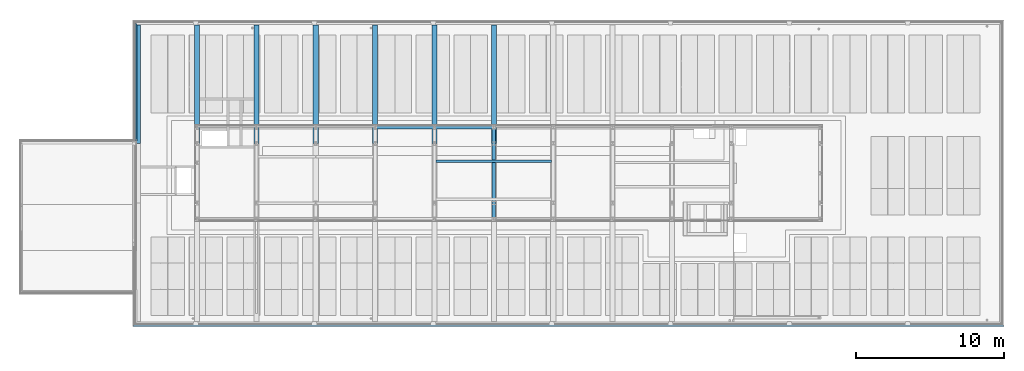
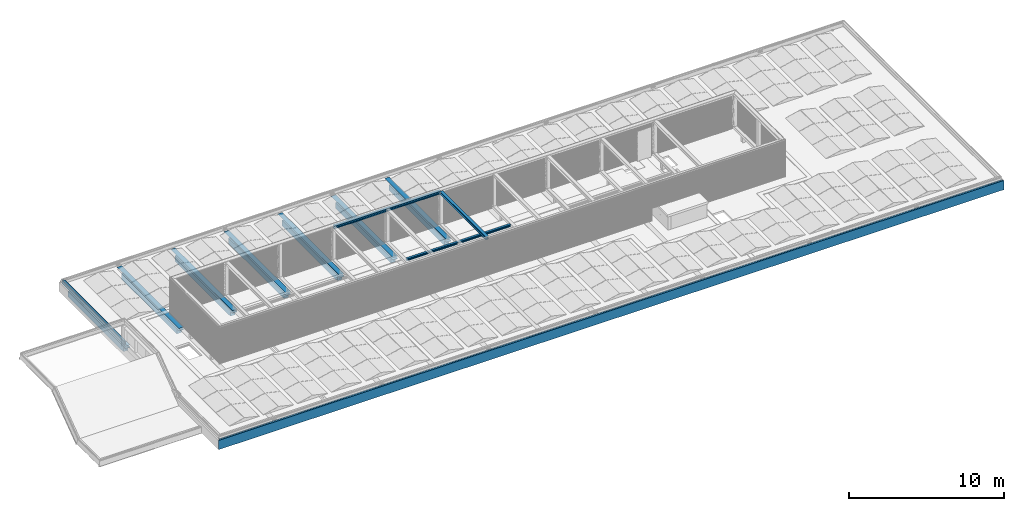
# One storey, part 10 of 63: 13 beams.
"""IFC2X3 building model written with IfcOpenShell, lengths in millimetres."""

from ifc_helpers import new_model, entity, si_unit, converted_unit, derived_unit, money_unit, direction, frame, origin_with_axes, place, context, subcontext, project, spatial, faceted_brep, material, type_object, element, save


model = new_model("IFC2X3")

# Units and contexts
model_context = context("Model", 3, precision=0.01, world=origin_with_axes(), true_north=direction((0.0, 1.0)))
body_context = subcontext(model_context, "Body", "Model", "MODEL_VIEW")
ifc_project = project(units=[si_unit("LENGTHUNIT", "METRE", prefix="MILLI"), si_unit("AREAUNIT", "SQUARE_METRE"), si_unit("VOLUMEUNIT", "CUBIC_METRE"), converted_unit("PLANEANGLEUNIT", "DEGREE", entity("IfcPlaneAngleMeasure", 0.0174532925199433), si_unit("PLANEANGLEUNIT", "RADIAN"), dimensions=[0, 0, 0, 0, 0, 0, 0]), money_unit("EUR"), converted_unit("TIMEUNIT", "Year", entity("IfcTimeMeasure", 31557600.0), si_unit("TIMEUNIT", "SECOND"), dimensions=[0, 0, 1, 0, 0, 0, 0]), si_unit("MASSUNIT", "GRAM", prefix="KILO"), si_unit("THERMODYNAMICTEMPERATUREUNIT", "DEGREE_CELSIUS"), si_unit("LUMINOUSINTENSITYUNIT", "LUMEN"), si_unit("ENERGYUNIT", "JOULE", prefix="MEGA"), derived_unit("THERMALCONDUCTANCEUNIT", [(si_unit("POWERUNIT", "WATT"), 1), (si_unit("LENGTHUNIT", "METRE"), -1), (si_unit("THERMODYNAMICTEMPERATUREUNIT", "KELVIN"), -1)]), derived_unit("SPECIFICHEATCAPACITYUNIT", [(si_unit("ENERGYUNIT", "JOULE"), 1), (si_unit("MASSUNIT", "GRAM", prefix="KILO"), -1), (si_unit("THERMODYNAMICTEMPERATUREUNIT", "KELVIN"), -1)]), derived_unit("MASSDENSITYUNIT", [(si_unit("MASSUNIT", "GRAM", prefix="KILO"), 1), (si_unit("VOLUMEUNIT", "CUBIC_METRE"), -1)])], contexts=[model_context])

# Site, building, storey
site_placement = place(None, origin_with_axes())
site = spatial("IfcSite", under=ifc_project, at=site_placement, Name="<site naam>", CompositionType="ELEMENT")
building_placement = place(site_placement, origin_with_axes())
building = spatial("IfcBuilding", under=site, at=building_placement, Name="<Naam gebouw>", CompositionType="ELEMENT")
storey_placement = place(building_placement, frame((0.0, 0.0, 12770.0), z_axis=(0.0, 0.0, 1.0), x_axis=(1.0, 0.0, 0.0)))
storey = spatial("IfcBuildingStorey", under=building, at=storey_placement, Name="04 4e verdieping", CompositionType="ELEMENT", Elevation=12770.0)

# Beams
ifc_material_1 = material(Name="beton_gewapend_prefab")
beam_type_1 = type_object("IfcBeamType", Name="Betonbanden 160 x 760", PredefinedType="BEAM")
beam_1_placement = place(storey_placement, frame((11725.00000000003, -264.9999996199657, 50.00004976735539), z_axis=(0.0, 0.0, 1.0), x_axis=(0.0, -1.0, 0.0)))
element("IfcBeam", 1, at=beam_1_placement, inside=storey, type_object=beam_type_1, material=ifc_material_1, Name="41_Balk_Betonbanden", ObjectType="BEAM", context=body_context, shape_type="Brep", body=[
    faceted_brep([(-60.0000003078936, 60.00000030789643, 0.0), (-60.0000003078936, 60.00000030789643, -30.00000230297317), (-60.00000030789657, 58524.99999969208, -30.00000230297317), (-60.00000030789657, 58524.99999969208, 0.0), (59.99999757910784, -59.99999757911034, -759.9999375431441), (59.99999757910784, -59.99999757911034, -30.00000230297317), (-100.0000071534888, 100.0000071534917, 0.0), (-100.0000071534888, 100.0000071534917, -100.0000001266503), (4.298052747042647e-06, -4.298053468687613e-06, -100.0000001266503), (4.298052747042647e-06, -4.298053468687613e-06, -690.0000385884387), (-29.99999800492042, 29.9999980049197, -690.0000385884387), (-29.99999800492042, 29.9999980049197, -660.0000280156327), (-60.0000003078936, 60.00000030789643, -660.0000280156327), (-60.0000003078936, 60.00000030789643, -759.9999375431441), (4.298052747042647e-06, -4.298053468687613e-06, -759.9999375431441), (4.298052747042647e-06, -4.298053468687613e-06, -730.0000145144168), (29.99999527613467, -29.99999527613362, -730.0000145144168), (29.99999527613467, -29.99999527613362, -759.9999375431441), (59.9999975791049, 58644.99999757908, -30.00000230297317), (-100.0000071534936, 58484.99999284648, 0.0), (59.9999975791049, 58644.99999757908, -759.9999375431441), (29.99999527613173, 58614.99999527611, -759.9999375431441), (29.99999527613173, 58614.99999527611, -730.0000145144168), (4.298049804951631e-06, 58585.00000429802, -730.0000145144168), (4.298049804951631e-06, 58585.00000429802, -759.9999375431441), (-60.00000030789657, 58524.99999969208, -759.9999375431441), (-60.00000030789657, 58524.99999969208, -660.0000280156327), (-29.99999800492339, 58555.00000199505, -660.0000280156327), (-29.99999800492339, 58555.00000199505, -690.0000385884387), (4.298049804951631e-06, 58585.00000429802, -690.0000385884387), (4.298049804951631e-06, 58585.00000429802, -100.0000001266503), (-100.0000071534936, 58484.99999284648, -100.0000001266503)], [[[0, 1, 2, 3]], [[4, 5, 1, 0, 6, 7, 8, 9, 10, 11, 12, 13, 14, 15, 16, 17]], [[1, 5, 18, 2]], [[19, 3, 2, 18, 20, 21, 22, 23, 24, 25, 26, 27, 28, 29, 30, 31]], [[6, 0, 3, 19]], [[5, 4, 20, 18]], [[7, 6, 19, 31]], [[8, 7, 31, 30]], [[9, 8, 30, 29]], [[10, 9, 29, 28]], [[11, 10, 28, 27]], [[12, 11, 27, 26]], [[13, 12, 26, 25]], [[14, 13, 25, 24]], [[15, 14, 24, 23]], [[16, 15, 23, 22]], [[17, 16, 22, 21]], [[4, 17, 21, 20]]]),
])
ifc_material_2 = material(Name="staal C")
beam_type_2 = type_object("IfcBeamType", Name="HEB220 220 x 220", PredefinedType="BEAM")
beam_2_placement = place(storey_placement, frame((36000.00000000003, 13084.50000000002, 3039.88580884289), z_axis=(0.0, 0.0, 1.0), x_axis=(0.000130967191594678, 0.9999999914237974, 0.0)))
element("IfcBeam", 2, at=beam_2_placement, inside=storey, type_object=beam_type_2, material=ifc_material_2, Name="Info_Balk_HEB220", ObjectType="BEAM", context=body_context, shape_type="Brep", body=[
    faceted_brep([(110.0000000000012, 4110.014716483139, 99.50000000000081), (110.0000000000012, 7890.014474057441, 99.50000000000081), (110.0000000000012, 7890.014474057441, 115.5000000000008), (110.0000000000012, 4110.014716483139, 115.5000000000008), (98.45288370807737, 7995.262962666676, 99.50000000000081), (98.46666800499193, 7890.012963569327, 99.50000000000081), (98.96172395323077, 4110.013270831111, 99.50000000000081), (98.97550825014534, 4004.763271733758, 99.50000000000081), (4.749999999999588, 4004.75093128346, 99.50000000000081), (4.750000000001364, 7995.250690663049, 99.50000000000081), (98.46666800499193, 7890.012963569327, 115.5000000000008), (-89.53333038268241, 7889.988341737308, 115.5000000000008), (-105.5333302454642, 7889.986246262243, 115.5000000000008), (-105.547738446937, 8000.000068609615, 115.5000000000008), (-109.9999999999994, 8000.000068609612, 115.5000000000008), (-109.9999999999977, 4109.985903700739, 115.5000000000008), (-89.03827443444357, 4109.988648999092, 115.5000000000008), (-89.024490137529, 4004.738649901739, 115.5000000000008), (98.97550825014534, 4004.763271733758, 115.5000000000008), (98.96172395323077, 4110.013270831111, 115.5000000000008), (98.45288370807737, 7995.262962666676, 115.5000000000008), (-89.54711467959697, 7995.238340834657, 115.5000000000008), (-89.024490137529, 4004.738649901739, 99.50000000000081), (-4.749999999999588, 4004.749687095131, 99.50000000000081), (-4.749999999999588, 4004.749687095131, -88.4999999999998), (-89.024490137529, 4004.738649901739, -88.4999999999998), (-89.024490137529, 4004.738649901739, -104.4999999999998), (98.97550825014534, 4004.763271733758, -104.4999999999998), (98.97550825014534, 4004.763271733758, -88.4999999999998), (4.749999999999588, 4004.75093128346, -88.4999999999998), (4.750000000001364, 7995.250690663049, -88.4999999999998), (-89.54711467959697, 7995.238340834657, 99.50000000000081), (98.45288370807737, 7995.262962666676, -88.4999999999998), (98.45288370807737, 7995.262962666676, -104.4999999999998), (-89.54711467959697, 7995.238340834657, -104.4999999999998), (-89.54711467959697, 7995.238340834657, -88.4999999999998), (-4.749999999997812, 7995.249446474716, -88.4999999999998), (-4.749999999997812, 7995.249446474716, 99.50000000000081), (-105.5333302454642, 7889.986246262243, 99.50000000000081), (-89.53333038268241, 7889.988341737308, 99.50000000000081), (-105.547738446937, 8000.000068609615, 99.50000000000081), (-109.9999999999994, 8000.000068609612, 99.50000000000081), (-109.9999999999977, 4109.985903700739, 99.50000000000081), (-105.0382742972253, 4109.986553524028, 99.50000000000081), (-89.03827443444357, 4109.988648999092, 99.50000000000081), (-89.53333038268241, 7889.988341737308, -88.4999999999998), (-105.5333302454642, 7889.986246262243, -88.4999999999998), (-105.547738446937, 8000.000068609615, -88.4999999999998), (-109.9999999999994, 8000.000068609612, -88.4999999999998), (-109.9999999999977, 4109.985903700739, -88.4999999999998), (-105.0382742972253, 4109.986553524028, -88.4999999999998), (-89.03827443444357, 4109.988648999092, -88.4999999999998), (-89.03827443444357, 4109.988648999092, -104.4999999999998), (98.46666800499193, 7890.012963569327, -104.4999999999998), (110.0000000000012, 7890.014474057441, -104.4999999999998), (110.0000000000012, 4110.014716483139, -104.4999999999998), (98.96172395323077, 4110.013270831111, -104.4999999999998), (-105.0382742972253, 4109.986553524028, -104.4999999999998), (-109.9999999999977, 4109.985903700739, -104.4999999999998), (-109.9999999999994, 8000.000068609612, -104.4999999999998), (-105.547738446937, 8000.000068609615, -104.4999999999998), (-105.5333302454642, 7889.986246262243, -104.4999999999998), (-89.53333038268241, 7889.988341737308, -104.4999999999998), (98.96172395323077, 4110.013270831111, -88.4999999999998), (98.46666800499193, 7890.012963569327, -88.4999999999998), (110.0000000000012, 4110.014716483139, -88.4999999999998), (110.0000000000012, 7890.014474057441, -88.4999999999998)], [[[0, 1, 2, 3]], [[4, 5, 1, 0, 6, 7, 8, 9]], [[5, 10, 2, 1]], [[11, 12, 13, 14, 15, 16, 17, 18, 19, 3, 2, 10, 20, 21]], [[6, 0, 3, 19]], [[4, 20, 10, 5]], [[6, 19, 18, 7]], [[7, 18, 17, 22, 23, 24, 25, 26, 27, 28, 29, 8]], [[29, 30, 9, 8]], [[31, 21, 20, 4, 9, 30, 32, 33, 34, 35, 36, 37]], [[38, 12, 11, 39]], [[40, 13, 12, 38]], [[14, 13, 40, 41]], [[15, 14, 41, 42]], [[42, 43, 44, 16, 15]], [[22, 17, 16, 44]], [[39, 11, 21, 31]], [[39, 31, 37, 23, 22, 44, 43, 42, 41, 40, 38]], [[23, 37, 36, 24]], [[45, 46, 47, 48, 49, 50, 51, 25, 24, 36, 35]], [[26, 25, 51, 52]], [[33, 53, 54, 55, 56, 27, 26, 52, 57, 58, 59, 60, 61, 62, 34]], [[56, 63, 28, 27]], [[64, 32, 30, 29, 28, 63, 65, 66]], [[33, 32, 64, 53]], [[62, 45, 35, 34]], [[61, 46, 45, 62]], [[60, 47, 46, 61]], [[48, 47, 60, 59]], [[49, 48, 59, 58]], [[58, 57, 52, 51, 50, 49]], [[53, 64, 66, 54]], [[55, 54, 66, 65]], [[56, 55, 65, 63]]]),
    faceted_brep([(-88.5144056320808, 109.9884427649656, 115.5000000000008), (-88.50062133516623, 4.738443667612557, 115.5000000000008), (99.49937705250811, 4.76306549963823, 115.5000000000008), (99.48559275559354, 110.0130645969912, 115.5000000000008), (110.0000000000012, 110.014441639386, 115.5000000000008), (110.0000000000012, 3890.014714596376, 115.5000000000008), (98.99053673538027, 3890.01327271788, 115.5000000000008), (98.97675243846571, 3995.263271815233, 115.5000000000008), (-89.02324594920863, 3995.238649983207, 115.5000000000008), (-89.00946165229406, 3889.988650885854, 115.5000000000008), (-109.9999999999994, 3889.985901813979, 115.5000000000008), (-109.9999999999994, 109.9856288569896, 115.5000000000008), (-88.50062133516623, 4.738443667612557, 99.50000000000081), (-88.5144056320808, 109.9884427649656, 99.50000000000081), (99.49937705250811, 4.76306549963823, 99.50000000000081), (-4.749999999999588, 4.74941225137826, 99.50000000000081), (-4.749999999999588, 4.74941225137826, -88.4999999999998), (-88.50062133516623, 4.738443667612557, -88.4999999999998), (-88.50062133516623, 4.738443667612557, -104.4999999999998), (99.49937705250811, 4.76306549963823, -104.4999999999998), (99.49937705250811, 4.76306549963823, -88.4999999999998), (4.749999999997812, 4.750656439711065, -88.4999999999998), (4.749999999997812, 4.750656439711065, 99.50000000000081), (99.48559275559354, 110.0130645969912, 99.50000000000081), (110.0000000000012, 110.014441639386, 99.50000000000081), (110.0000000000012, 3890.014714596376, 99.50000000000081), (98.99053673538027, 3890.01327271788, 99.50000000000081), (98.97675243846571, 3995.263271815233, 99.50000000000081), (-89.02324594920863, 3995.238649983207, 99.50000000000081), (4.749999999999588, 3995.250931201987, 99.50000000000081), (4.749999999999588, 3995.250931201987, -88.4999999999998), (98.97675243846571, 3995.263271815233, -88.4999999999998), (98.97675243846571, 3995.263271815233, -104.4999999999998), (-89.02324594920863, 3995.238649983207, -104.4999999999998), (-89.02324594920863, 3995.238649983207, -88.4999999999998), (-4.749999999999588, 3995.249687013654, -88.4999999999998), (-4.749999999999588, 3995.249687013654, 99.50000000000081), (-89.00946165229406, 3889.988650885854, 99.50000000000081), (-105.0094615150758, 3889.986555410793, 99.50000000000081), (-109.9999999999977, 3889.985901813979, 99.50000000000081), (-109.9999999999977, 109.9856288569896, 99.50000000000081), (-104.5144054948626, 109.9863472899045, 99.50000000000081), (-88.5144056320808, 109.9884427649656, -88.4999999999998), (-89.00946165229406, 3889.988650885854, -88.4999999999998), (-105.0094615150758, 3889.986555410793, -88.4999999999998), (-109.9999999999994, 3889.985901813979, -88.4999999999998), (-109.9999999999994, 109.9856288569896, -88.4999999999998), (-104.5144054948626, 109.9863472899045, -88.4999999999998), (-88.5144056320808, 109.9884427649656, -104.4999999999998), (-104.5144054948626, 109.9863472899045, -104.4999999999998), (-109.9999999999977, 109.9856288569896, -104.4999999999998), (-109.9999999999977, 3889.985901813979, -104.4999999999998), (-105.0094615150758, 3889.986555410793, -104.4999999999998), (-89.00946165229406, 3889.988650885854, -104.4999999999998), (98.99053673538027, 3890.01327271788, -104.4999999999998), (110.0000000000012, 3890.014714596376, -104.4999999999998), (110.0000000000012, 110.014441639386, -104.4999999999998), (99.48559275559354, 110.0130645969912, -104.4999999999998), (99.48559275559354, 110.0130645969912, -88.4999999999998), (110.0000000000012, 110.014441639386, -88.4999999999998), (110.0000000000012, 3890.014714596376, -88.4999999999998), (98.99053673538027, 3890.01327271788, -88.4999999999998)], [[[0, 1, 2, 3, 4, 5, 6, 7, 8, 9, 10, 11]], [[12, 1, 0, 13]], [[14, 2, 1, 12, 15, 16, 17, 18, 19, 20, 21, 22]], [[23, 3, 2, 14]], [[23, 24, 4, 3]], [[5, 4, 24, 25]], [[26, 6, 5, 25]], [[27, 7, 6, 26]], [[28, 8, 7, 27, 29, 30, 31, 32, 33, 34, 35, 36]], [[37, 9, 8, 28]], [[10, 9, 37, 38, 39]], [[10, 39, 40, 11]], [[40, 41, 13, 0, 11]], [[12, 13, 41, 40, 39, 38, 37, 28, 36, 15]], [[35, 16, 15, 36]], [[42, 17, 16, 35, 34, 43, 44, 45, 46, 47]], [[18, 17, 42, 48]], [[18, 48, 49, 50, 51, 52, 53, 33, 32, 54, 55, 56, 57, 19]], [[57, 58, 20, 19]], [[20, 58, 59, 60, 61, 31, 30, 21]], [[29, 22, 21, 30]], [[23, 14, 22, 29, 27, 26, 25, 24]], [[32, 31, 61, 54]], [[53, 43, 34, 33]], [[45, 44, 43, 53, 52, 51]], [[45, 51, 50, 46]], [[50, 49, 48, 42, 47, 46]], [[54, 61, 60, 55]], [[60, 59, 56, 55]], [[57, 56, 59, 58]]]),
])
beam_3_placement = place(storey_placement, frame((35999.99996569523, 12980.00000000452, 3039.88580884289), z_axis=(0.0, 0.0, 1.0), x_axis=(-1.0, 0.0, 0.0)))
element("IfcBeam", 3, at=beam_3_placement, inside=storey, type_object=beam_type_2, material=ifc_material_2, Name="Info_Balk_HEB220", ObjectType="BEAM", context=body_context, shape_type="Brep", body=[
    faceted_brep([(-109.9999999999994, 0.0, 115.5000000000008), (-109.9999999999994, 5960.000000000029, 115.5000000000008), (-109.9999999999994, 5960.000000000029, 99.50000000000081), (-109.9999999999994, 0.0, 99.50000000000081), (109.9999999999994, 0.0, 115.5000000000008), (109.9999999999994, 5960.000000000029, 115.5000000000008), (109.9999999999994, 5960.000000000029, 99.50000000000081), (4.750000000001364, 5960.000000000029, 99.50000000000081), (4.750000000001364, 5960.000000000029, -88.4999999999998), (109.9999999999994, 5960.000000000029, -88.4999999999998), (109.9999999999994, 5960.000000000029, -104.4999999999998), (-109.9999999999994, 5960.000000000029, -104.4999999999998), (-109.9999999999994, 5960.000000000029, -88.4999999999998), (-4.750000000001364, 5960.000000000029, -88.4999999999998), (-4.750000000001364, 5960.000000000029, 99.50000000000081), (-4.750000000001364, 0.0, 99.50000000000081), (-4.750000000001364, 0.0, -88.4999999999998), (-109.9999999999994, 0.0, -88.4999999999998), (-109.9999999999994, 0.0, -104.4999999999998), (109.9999999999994, 0.0, -104.4999999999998), (109.9999999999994, 0.0, -88.4999999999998), (4.750000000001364, 0.0, -88.4999999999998), (4.750000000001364, 0.0, 99.50000000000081), (109.9999999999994, 0.0, 99.50000000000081)], [[[0, 1, 2, 3]], [[4, 5, 1, 0]], [[2, 1, 5, 6, 7, 8, 9, 10, 11, 12, 13, 14]], [[3, 2, 14, 15]], [[4, 0, 3, 15, 16, 17, 18, 19, 20, 21, 22, 23]], [[23, 6, 5, 4]], [[22, 7, 6, 23]], [[21, 8, 7, 22]], [[20, 9, 8, 21]], [[19, 10, 9, 20]], [[18, 11, 10, 19]], [[17, 12, 11, 18]], [[16, 13, 12, 17]], [[15, 14, 13, 16]]]),
])
ifc_material_3 = material(Name="beton_gewapend C")
beam_type_3 = type_object("IfcBeamType", Name="beton_gewapend C 350 x 600", PredefinedType="BEAM")
beam_4_placement = place(storey_placement, frame((36000.00000000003, 19999.99999999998, -59.99999999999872), z_axis=(0.0, 0.0, 1.0), x_axis=(-1.0, 0.0, 0.0)))
element("IfcBeam", 4, at=beam_4_placement, inside=storey, type_object=beam_type_3, material=ifc_material_3, Name="28_Balk_beton_gewapend", ObjectType="BEAM", context=body_context, shape_type="Brep", body=[
    faceted_brep([(-175.0000000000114, 7999.999999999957, -220.0000000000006), (-175.0000000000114, 7724.999999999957, -220.0000000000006), (-175.0000000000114, 7724.999999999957, -599.9999999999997), (-175.0000000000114, 549.9999999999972, -599.9999999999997), (-175.0000000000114, 549.9999999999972, -159.9999853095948), (-175.0000000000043, 7999.999999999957, -159.9999853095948), (174.9999999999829, 7724.999999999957, -220.0000000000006), (174.9999999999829, 7999.999999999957, -220.0000000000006), (174.9999999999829, 7724.999999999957, -599.9999999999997), (174.9999999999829, 549.9999999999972, -599.9999999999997), (174.9999999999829, 549.9999999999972, -159.9999853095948), (174.9999999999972, 7999.999999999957, -159.9999853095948)], [[[0, 1, 2, 3, 4, 5]], [[6, 1, 0, 7]], [[8, 2, 1, 6]], [[3, 2, 8, 9]], [[9, 10, 4, 3]], [[5, 4, 10, 11]], [[11, 7, 0, 5]], [[8, 6, 7, 11, 10, 9]]]),
    faceted_brep([(-175.0000000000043, 7999.999999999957, 0.0), (-175.0000000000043, 7999.999999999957, -9.99998530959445), (-174.9999999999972, 0.0, -9.99998530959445), (-174.9999999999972, 0.0, 0.0), (174.9999999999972, 7999.999999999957, 0.0), (174.9999999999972, 7999.999999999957, -9.99998530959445), (174.9999999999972, 0.0, -9.99998530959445), (174.9999999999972, 0.0, 0.0)], [[[0, 1, 2, 3]], [[4, 5, 1, 0]], [[5, 6, 2, 1]], [[3, 2, 6, 7]], [[3, 7, 4, 0]], [[7, 6, 5, 4]]]),
])
beam_5_placement = place(storey_placement, frame((32000.00000000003, 19999.99999999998, -59.99999999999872), z_axis=(0.0, 0.0, 1.0), x_axis=(-1.0, 0.0, 0.0)))
element("IfcBeam", 5, at=beam_5_placement, inside=storey, type_object=beam_type_3, material=ifc_material_3, Name="28_Balk_beton_gewapend", ObjectType="BEAM", context=body_context, shape_type="Brep", body=[
    faceted_brep([(-175.0000000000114, 7999.999999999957, -220.0000000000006), (-175.0000000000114, 7724.999999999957, -220.0000000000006), (-175.0000000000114, 7724.999999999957, -599.9999999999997), (-175.0000000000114, 549.9999999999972, -599.9999999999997), (-175.0000000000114, 549.9999999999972, -159.9999853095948), (-175.0000000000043, 7999.999999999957, -159.9999853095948), (174.9999999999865, 7724.999999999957, -220.0000000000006), (174.9999999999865, 7999.999999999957, -220.0000000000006), (174.9999999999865, 7724.999999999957, -599.9999999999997), (174.9999999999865, 549.9999999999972, -599.9999999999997), (174.9999999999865, 549.9999999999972, -159.9999853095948), (175.0000000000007, 7999.999999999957, -159.9999853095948)], [[[0, 1, 2, 3, 4, 5]], [[6, 1, 0, 7]], [[8, 2, 1, 6]], [[3, 2, 8, 9]], [[9, 10, 4, 3]], [[5, 4, 10, 11]], [[11, 7, 0, 5]], [[8, 6, 7, 11, 10, 9]]]),
    faceted_brep([(-175.0000000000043, 7999.999999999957, 0.0), (-175.0000000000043, 7999.999999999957, -9.99998530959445), (-174.9999999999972, 0.0, -9.99998530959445), (-174.9999999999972, 0.0, 0.0), (175.0000000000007, 7999.999999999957, 0.0), (175.0000000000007, 7999.999999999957, -9.99998530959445), (175.0000000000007, 0.0, -9.99998530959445), (175.0000000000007, 0.0, 0.0)], [[[0, 1, 2, 3]], [[4, 5, 1, 0]], [[5, 6, 2, 1]], [[3, 2, 6, 7]], [[3, 7, 4, 0]], [[7, 6, 5, 4]]]),
])
for number, where, z_axis, x_axis, name in (
    (6, (28000.00000000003, 19999.99999999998, -59.99999999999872), (0.0, 0.0, 1.0), (-1.0, 0.0, 0.0), "28_Balk_beton_gewapend"),
    (7, (24000.00000000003, 19999.99999999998, -59.99999999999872), (0.0, 0.0, 1.0), (-1.0, 0.0, 0.0), "28_Balk_beton_gewapend"),
    (8, (20000.00000000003, 19999.99999999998, -59.99999999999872), (0.0, 0.0, 1.0), (-1.0, 0.0, 0.0), "28_Balk_beton_gewapend"),
):
    element("IfcBeam", number, at=place(storey_placement, frame(where, z_axis=z_axis, x_axis=x_axis)), inside=storey, type_object=beam_type_3, material=ifc_material_3, Name=name, ObjectType="BEAM", context=body_context, shape_type="Brep", body=[
        faceted_brep([(-175.0000000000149, 7999.999999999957, -220.0000000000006), (-175.0000000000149, 7724.999999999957, -220.0000000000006), (-175.0000000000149, 7724.999999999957, -599.9999999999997), (-175.0000000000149, 549.9999999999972, -599.9999999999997), (-175.0000000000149, 549.9999999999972, -159.9999853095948), (-175.0000000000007, 7999.999999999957, -159.9999853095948), (174.9999999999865, 7724.999999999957, -220.0000000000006), (174.9999999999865, 7999.999999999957, -220.0000000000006), (174.9999999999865, 7724.999999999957, -599.9999999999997), (174.9999999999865, 549.9999999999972, -599.9999999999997), (174.9999999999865, 549.9999999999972, -159.9999853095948), (175.0000000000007, 7999.999999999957, -159.9999853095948)], [[[0, 1, 2, 3, 4, 5]], [[6, 1, 0, 7]], [[8, 2, 1, 6]], [[3, 2, 8, 9]], [[9, 10, 4, 3]], [[5, 4, 10, 11]], [[11, 7, 0, 5]], [[8, 6, 7, 11, 10, 9]]]),
        faceted_brep([(-175.0000000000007, 7999.999999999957, 0.0), (-175.0000000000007, 7999.999999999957, -9.99998530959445), (-175.0000000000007, 0.0, -9.99998530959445), (-175.0000000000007, 0.0, 0.0), (175.0000000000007, 7999.999999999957, 0.0), (175.0000000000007, 7999.999999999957, -9.99998530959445), (175.0000000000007, 0.0, -9.99998530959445), (175.0000000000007, 0.0, 0.0)], [[[0, 1, 2, 3]], [[4, 5, 1, 0]], [[5, 6, 2, 1]], [[3, 2, 6, 7]], [[3, 7, 4, 0]], [[7, 6, 5, 4]]]),
    ])
beam_6_placement = place(storey_placement, frame((16000.00000000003, 19999.99999999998, -59.99999999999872), z_axis=(0.0, 0.0, 1.0), x_axis=(-1.0, 0.0, 0.0)))
element("IfcBeam", 9, at=beam_6_placement, inside=storey, type_object=beam_type_3, material=ifc_material_3, Name="28_Balk_beton_gewapend", ObjectType="BEAM", context=body_context, shape_type="Brep", body=[
    faceted_brep([(-175.0000000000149, 7999.999999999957, -220.0000000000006), (-175.0000000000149, 7724.999999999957, -220.0000000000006), (-175.0000000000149, 7724.999999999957, -599.9999999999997), (-175.0000000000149, 549.9999999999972, -599.9999999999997), (-175.0000000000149, 549.9999999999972, -159.9999853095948), (-175.0000000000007, 7999.999999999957, -159.9999853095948), (174.9999999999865, 7724.999999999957, -220.0000000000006), (174.9999999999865, 7999.999999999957, -220.0000000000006), (174.9999999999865, 7724.999999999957, -599.9999999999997), (174.9999999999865, 549.9999999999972, -599.9999999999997), (174.9999999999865, 549.9999999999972, -159.9999853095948), (174.9999999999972, 7999.999999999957, -159.9999853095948)], [[[0, 1, 2, 3, 4, 5]], [[6, 1, 0, 7]], [[8, 2, 1, 6]], [[3, 2, 8, 9]], [[9, 10, 4, 3]], [[5, 4, 10, 11]], [[11, 7, 0, 5]], [[8, 6, 7, 11, 10, 9]]]),
    faceted_brep([(-175.0000000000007, 7999.999999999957, 0.0), (-175.0000000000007, 7999.999999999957, -9.99998530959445), (-175.0000000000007, 0.0, -9.99998530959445), (-175.0000000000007, 0.0, 0.0), (174.9999999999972, 7999.999999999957, 0.0), (174.9999999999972, 7999.999999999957, -9.99998530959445), (175.0000000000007, 0.0, -9.99998530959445), (175.0000000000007, 0.0, 0.0)], [[[0, 1, 2, 3]], [[4, 5, 1, 0]], [[5, 6, 2, 1]], [[3, 2, 6, 7]], [[3, 7, 4, 0]], [[7, 6, 5, 4]]]),
])
beam_7_placement = place(storey_placement, frame((12000.00000000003, 19999.99999999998, -59.99999999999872), z_axis=(0.0, 0.0, 1.0), x_axis=(-1.0, 0.0, 0.0)))
element("IfcBeam", 10, at=beam_7_placement, inside=storey, type_object=beam_type_3, material=ifc_material_3, Name="28_Balk_beton_gewapend", ObjectType="BEAM", context=body_context, shape_type="Brep", body=[
    faceted_brep([(-175.0000000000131, 7999.999999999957, -220.0000000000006), (-175.0000000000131, 7724.999999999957, -220.0000000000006), (-175.0000000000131, 7724.999999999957, -599.9999999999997), (-175.0000000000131, 549.9999999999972, -599.9999999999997), (-175.0000000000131, 549.9999999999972, -159.9999853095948), (-175.0000000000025, 7999.999999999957, -159.9999853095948), (174.9999999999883, 7724.999999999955, -220.0000000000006), (174.9999999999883, 7999.999999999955, -220.0000000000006), (174.9999999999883, 7724.999999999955, -599.9999999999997), (174.9999999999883, 549.9999999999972, -599.9999999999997), (174.9999999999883, 549.9999999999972, -159.9999853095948), (174.9999999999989, 7999.999999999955, -159.9999853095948)], [[[0, 1, 2, 3, 4, 5]], [[6, 1, 0, 7]], [[8, 2, 1, 6]], [[3, 2, 8, 9]], [[9, 10, 4, 3]], [[5, 4, 10, 11]], [[11, 7, 0, 5]], [[8, 6, 7, 11, 10, 9]]]),
    faceted_brep([(-175.0000000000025, 7999.999999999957, 0.0), (-175.0000000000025, 7999.999999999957, -9.99998530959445), (-175.0000000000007, 0.0, -9.99998530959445), (-175.0000000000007, 0.0, 0.0), (174.9999999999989, 7999.999999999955, 0.0), (174.9999999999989, 7999.999999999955, -9.99998530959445), (175.0000000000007, 0.0, -9.99998530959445), (175.0000000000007, 0.0, 0.0)], [[[0, 1, 2, 3]], [[4, 5, 1, 0]], [[5, 6, 2, 1]], [[3, 2, 6, 7]], [[3, 7, 4, 0]], [[7, 6, 5, 4]]]),
])
ifc_material_4 = material(Name="ALG - BUITENAFWERKING")
beam_type_4 = type_object("IfcBeamType", Name="ALG - BUITENAFWERKING 170 x 18", PredefinedType="BEAM")
beam_8_placement = place(storey_placement, frame((11956.80000242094, 20033.19999757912, 241.2498222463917), z_axis=(0.0, 0.0, 1.0), x_axis=(-1.0, 0.0, 0.0)))
element("IfcBeam", 11, at=beam_8_placement, inside=storey, type_object=beam_type_4, material=ifc_material_4, Name="47_Balk_ALG", ObjectType="BEAM", context=body_context, shape_type="Brep", body=[
    faceted_brep([(0.0, 7873.199997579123, 18.00262955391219), (0.0, 0.0, 18.00262955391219), (169.9999999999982, -169.9999999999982, 18.00262955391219), (169.9999999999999, 7873.199997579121, 18.00262955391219), (0.0, 7873.199997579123, 0.0), (0.0, 0.0, 0.0), (169.9999999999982, -169.9999999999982, 0.0), (169.9999999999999, 7873.199997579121, 0.0)], [[[0, 1, 2, 3]], [[4, 5, 1, 0]], [[1, 5, 6, 2]], [[3, 2, 6, 7]], [[7, 4, 0, 3]], [[7, 6, 5, 4]]]),
])
beam_type_5 = type_object("IfcBeamType", Name="HEB160 160 x 160", PredefinedType="BEAM")
beam_9_placement = place(storey_placement, frame((32109.99972515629, 10796.47173372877, 414.1514325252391), z_axis=(0.0, 0.0, 1.0), x_axis=(0.0, -1.0, 0.0)))
element("IfcBeam", 12, at=beam_9_placement, inside=storey, type_object=beam_type_5, material=ifc_material_2, Name="Info_Balk_HEB160", ObjectType="BEAM", context=body_context, shape_type="Brep", body=[
    faceted_brep([(80.00000000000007, 0.0, 85.49999999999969), (80.00000000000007, 3885.250240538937, 85.49999999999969), (-80.00000000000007, 3885.250240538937, 85.49999999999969), (-80.00000000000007, 0.0, 85.49999999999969), (80.00000000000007, 0.0, 72.49999999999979), (80.00000000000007, 3885.250240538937, 72.49999999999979), (-4.000000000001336, 3885.250240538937, 72.49999999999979), (-80.00000000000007, 3885.250240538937, 72.49999999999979), (3.999999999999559, 3885.250240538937, 72.49999999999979), (3.999999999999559, 3885.250240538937, -58.50000000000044), (-4.000000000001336, 3885.250240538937, -58.50000000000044), (-80.00000000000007, 0.0, 72.49999999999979), (-3.999999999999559, 0.0, 72.49999999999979), (-3.999999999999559, 0.0, -61.50000000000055), (-80.00000000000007, 0.0, -61.50000000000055), (-80.00000000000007, 0.0, -74.50000000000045), (80.00000000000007, 0.0, -74.50000000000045), (80.00000000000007, 0.0, -61.50000000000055), (3.999999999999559, 0.0, -61.50000000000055), (3.999999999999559, 0.0, 72.49999999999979), (3.999999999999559, 3780.000240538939, -58.50000000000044), (3.999999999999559, 3780.000240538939, -61.50000000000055), (-4.000000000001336, 3780.000240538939, -58.50000000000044), (-4.000000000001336, 3780.000240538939, -61.50000000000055), (-80.00000000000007, 3780.000240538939, -61.50000000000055), (-80.00000000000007, 3780.000240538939, -74.50000000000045), (80.00000000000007, 3780.000240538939, -74.50000000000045), (80.00000000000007, 3780.000240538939, -61.50000000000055)], [[[0, 1, 2, 3]], [[4, 5, 1, 0]], [[6, 7, 2, 1, 5, 8, 9, 10]], [[3, 2, 7, 11]], [[4, 0, 3, 11, 12, 13, 14, 15, 16, 17, 18, 19]], [[19, 8, 5, 4]], [[11, 7, 6, 12]], [[20, 9, 8, 19, 18, 21]], [[20, 22, 10, 9]], [[10, 22, 23, 13, 12, 6]], [[13, 23, 24, 14]], [[14, 24, 25, 15]], [[15, 25, 26, 16]], [[16, 26, 27, 17]], [[17, 27, 21, 18]], [[26, 25, 24, 23, 22, 20, 21, 27]]]),
    faceted_brep([(-80.00000000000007, 7780.000000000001, -74.50000000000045), (-80.00000000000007, 4000.000240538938, -74.50000000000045), (-80.00000000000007, 4000.000240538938, -61.50000000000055), (-80.00000000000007, 7780.000000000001, -61.50000000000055), (80.00000000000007, 7780.000000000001, -74.50000000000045), (80.00000000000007, 4000.000240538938, -74.50000000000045), (-4.000000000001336, 4000.000240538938, -58.50000000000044), (-4.000000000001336, 4000.000240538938, -61.50000000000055), (80.00000000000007, 4000.000240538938, -61.50000000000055), (3.999999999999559, 4000.000240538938, -61.50000000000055), (3.999999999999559, 4000.000240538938, -58.50000000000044), (-4.000000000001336, 7780.000000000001, -61.50000000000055), (-4.000000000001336, 7780.000000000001, 72.49999999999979), (-80.00000000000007, 7780.000000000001, 72.49999999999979), (-80.00000000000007, 7780.000000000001, 85.49999999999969), (80.00000000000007, 7780.000000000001, 85.49999999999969), (80.00000000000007, 7780.000000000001, 72.49999999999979), (3.999999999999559, 7780.000000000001, 72.49999999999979), (3.999999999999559, 7780.000000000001, -61.50000000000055), (80.00000000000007, 7780.000000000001, -61.50000000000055), (-4.000000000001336, 3894.75024053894, -58.50000000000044), (-4.000000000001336, 3894.75024053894, 72.49999999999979), (3.999999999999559, 3894.75024053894, -58.50000000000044), (3.999999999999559, 3894.75024053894, 72.49999999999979), (-80.00000000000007, 3894.75024053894, 72.49999999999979), (-80.00000000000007, 3894.75024053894, 85.49999999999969), (80.00000000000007, 3894.75024053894, 85.49999999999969), (80.00000000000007, 3894.75024053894, 72.49999999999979)], [[[0, 1, 2, 3]], [[4, 5, 1, 0]], [[6, 7, 2, 1, 5, 8, 9, 10]], [[3, 2, 7, 11]], [[12, 13, 14, 15, 16, 17, 18, 19, 4, 0, 3, 11]], [[19, 8, 5, 4]], [[6, 20, 21, 12, 11, 7]], [[18, 9, 8, 19]], [[22, 10, 9, 18, 17, 23]], [[22, 20, 6, 10]], [[12, 21, 24, 13]], [[13, 24, 25, 14]], [[14, 25, 26, 15]], [[15, 26, 27, 16]], [[16, 27, 23, 17]], [[27, 26, 25, 24, 21, 20, 22, 23]]]),
])
beam_type_6 = type_object("IfcBeamType", Name="ALG - BUITENAFWERKING 120 x 329", PredefinedType="BEAM")
beam_10_placement = place(storey_placement, frame((11930.00000242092, 20034.99999999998, -70.00000000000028), z_axis=(0.0, 0.0, 1.0), x_axis=(-1.0, 0.0, 0.0)))
element("IfcBeam", 13, at=beam_10_placement, inside=storey, type_object=beam_type_6, material=ifc_material_4, Name="47_Balk_ALG", ObjectType="BEAM", context=body_context, shape_type="Brep", body=[
    faceted_brep([(0.0, 0.0, 311.249822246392), (0.0, 0.0, 0.0), (119.9999999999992, -120.000000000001, 0.0), (119.9999999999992, -120.000000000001, 311.249822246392), (0.0, 7874.999999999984, 311.249822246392), (0.0, 7874.999999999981, 0.0), (120.000000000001, 7874.999999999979, 0.0), (120.000000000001, 7874.999999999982, 311.249822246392)], [[[0, 1, 2, 3]], [[4, 5, 1, 0]], [[5, 6, 2, 1]], [[3, 2, 6, 7]], [[0, 3, 7, 4]], [[7, 6, 5, 4]]]),
    faceted_brep([(0.0, 0.0, 329.2524518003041), (0.0, 0.0, 329.3), (0.0, 7874.999999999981, 329.3), (0.0, 7874.999999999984, 329.2524518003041), (119.9999999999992, -120.000000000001, 329.2524518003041), (119.9999999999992, -120.000000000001, 329.3), (120.000000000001, 7874.999999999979, 329.3), (120.000000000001, 7874.999999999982, 329.2524518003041)], [[[0, 1, 2, 3]], [[4, 5, 1, 0]], [[6, 2, 1, 5]], [[3, 2, 6, 7]], [[0, 3, 7, 4]], [[7, 6, 5, 4]]]),
])

save(model, "model.ifc")
